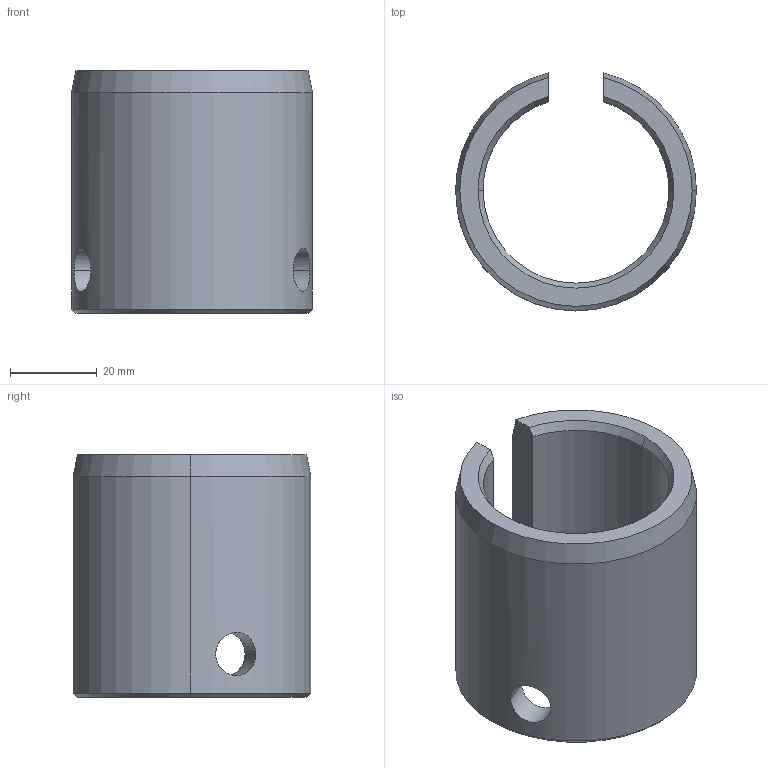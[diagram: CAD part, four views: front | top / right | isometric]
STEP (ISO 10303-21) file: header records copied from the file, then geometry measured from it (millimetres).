
FILE_DESCRIPTION (( 'STEP AP203' ), '1' );
FILE_NAME ('KBSH083P27.STEP', '2023-08-01T05:27:06', ( '' ), ( '' ), 'SwSTEP 2.0', 'SolidWorks 2017', '' );
FILE_SCHEMA (( 'CONFIG_CONTROL_DESIGN' ));
Length unit declared in the file: millimetre
Products named in the file (1): KBSH083P27
Bounding box: 55.56 x 54.83 x 56 mm (x, y, z)
Volume: 48640.6 mm3; surface area: 18037.4 mm2
Topology: 1 solids, 1 shells, 26 faces, 64 edges, 40 vertices
Faces by surface type: cone 12, cylinder 10, plane 4
Entity records: 1129 total; most frequent: CARTESIAN_POINT 439, ORIENTED_EDGE 128, DIRECTION 126, EDGE_CURVE 64, AXIS2_PLACEMENT_3D 51, VERTEX_POINT 40, EDGE_LOOP 30, FACE_OUTER_BOUND 26
